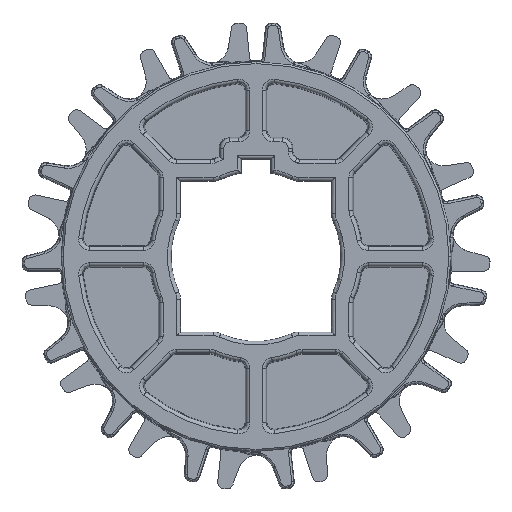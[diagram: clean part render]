
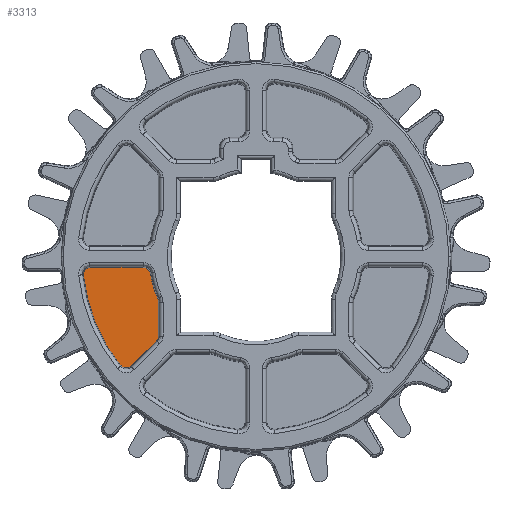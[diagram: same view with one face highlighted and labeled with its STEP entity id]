
A CAD part, top view. The second image highlights one B-rep face of the part: STEP entity #3313.
In plain terms, the highlighted planar face has unit normal (0, 0, 1).
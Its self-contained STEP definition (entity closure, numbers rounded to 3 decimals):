
#158=ELLIPSE('',#22021,2.001,1.999);
#159=ELLIPSE('',#22026,2.002,1.999);
#160=ELLIPSE('',#22032,2.002,1.999);
#161=ELLIPSE('',#22036,2.001,1.999);
#2158=FACE_OUTER_BOUND('',#4749,.T.);
#3313=ADVANCED_FACE('',(#2158),#3694,.T.);
#3694=PLANE('',#22047);
#4749=EDGE_LOOP('',(#12728,#12729,#12730,#12731,#12732,#12733,#12734,#12735,
#12736,#12737));
#6371=LINE('',#38632,#7321);
#6375=LINE('',#38697,#7325);
#6377=LINE('',#38869,#7327);
#7321=VECTOR('',#27632,1.);
#7325=VECTOR('',#27646,1.);
#7327=VECTOR('',#27668,1.);
#12728=ORIENTED_EDGE('',*,*,#18089,.T.);
#12729=ORIENTED_EDGE('',*,*,#18123,.F.);
#12730=ORIENTED_EDGE('',*,*,#18121,.F.);
#12731=ORIENTED_EDGE('',*,*,#18115,.F.);
#12732=ORIENTED_EDGE('',*,*,#18113,.T.);
#12733=ORIENTED_EDGE('',*,*,#18107,.F.);
#12734=ORIENTED_EDGE('',*,*,#18105,.F.);
#12735=ORIENTED_EDGE('',*,*,#18099,.F.);
#12736=ORIENTED_EDGE('',*,*,#18097,.F.);
#12737=ORIENTED_EDGE('',*,*,#18091,.F.);
#15234=VERTEX_POINT('',#38631);
#15235=VERTEX_POINT('',#38633);
#15236=VERTEX_POINT('',#38637);
#15239=VERTEX_POINT('',#38698);
#15240=VERTEX_POINT('',#38705);
#15243=VERTEX_POINT('',#38784);
#15244=VERTEX_POINT('',#38801);
#15247=VERTEX_POINT('',#38870);
#15248=VERTEX_POINT('',#38877);
#15251=VERTEX_POINT('',#38938);
#18089=EDGE_CURVE('',#15235,#15234,#6371,.T.);
#18091=EDGE_CURVE('',#15235,#15236,#158,.T.);
#18097=EDGE_CURVE('',#15236,#15239,#6375,.T.);
#18099=EDGE_CURVE('',#15239,#15240,#159,.T.);
#18105=EDGE_CURVE('',#15240,#15243,#19703,.T.);
#18107=EDGE_CURVE('',#15243,#15244,#160,.T.);
#18113=EDGE_CURVE('',#15247,#15244,#6377,.T.);
#18115=EDGE_CURVE('',#15247,#15248,#161,.T.);
#18121=EDGE_CURVE('',#15248,#15251,#19706,.T.);
#18123=EDGE_CURVE('',#15251,#15234,#19707,.T.);
#19703=CIRCLE('',#22030,46.569);
#19706=CIRCLE('',#22041,28.651);
#19707=CIRCLE('',#22043,3.086);
#22021=AXIS2_PLACEMENT_3D('',#38636,#27636,#27637);
#22026=AXIS2_PLACEMENT_3D('',#38704,#27649,#27650);
#22030=AXIS2_PLACEMENT_3D('',#38783,#27657,#27658);
#22032=AXIS2_PLACEMENT_3D('',#38800,#27661,#27662);
#22036=AXIS2_PLACEMENT_3D('',#38876,#27671,#27672);
#22041=AXIS2_PLACEMENT_3D('',#38937,#27681,#27682);
#22043=AXIS2_PLACEMENT_3D('',#38941,#27686,#27687);
#22047=AXIS2_PLACEMENT_3D('',#38945,#27694,#27695);
#27632=DIRECTION('',(0.,1.,0.));
#27636=DIRECTION('',(0.,0.,-1.));
#27637=DIRECTION('',(0.924,-0.383,0.));
#27646=DIRECTION('',(-0.707,-0.707,0.));
#27649=DIRECTION('',(0.,0.,-1.));
#27650=DIRECTION('',(-0.054,-0.999,0.));
#27657=DIRECTION('',(0.,0.,-1.));
#27658=DIRECTION('',(-0.781,-0.625,0.));
#27661=DIRECTION('',(0.,0.,-1.));
#27662=DIRECTION('',(-0.744,0.668,0.));
#27668=DIRECTION('',(-1.,0.,0.));
#27671=DIRECTION('',(0.,0.,-1.));
#27672=DIRECTION('',(0.649,0.761,0.));
#27681=DIRECTION('',(0.,0.,1.));
#27682=DIRECTION('',(-0.987,-0.16,0.));
#27686=DIRECTION('',(0.,0.,-1.));
#27687=DIRECTION('',(0.921,0.389,0.));
#27694=DIRECTION('',(0.,0.,1.));
#27695=DIRECTION('',(1.,0.,0.));
#38631=CARTESIAN_POINT('',(-26.152,137.656,2.499));
#38632=CARTESIAN_POINT('',(-26.152,128.793,2.499));
#38633=CARTESIAN_POINT('',(-26.152,128.793,2.499));
#38636=CARTESIAN_POINT('',(-28.153,128.794,2.499));
#38637=CARTESIAN_POINT('',(-26.737,127.38,2.499));
#38697=CARTESIAN_POINT('',(-26.737,127.38,2.499));
#38698=CARTESIAN_POINT('',(-33.383,120.734,2.499));
#38704=CARTESIAN_POINT('',(-34.796,122.151,2.499));
#38705=CARTESIAN_POINT('',(-36.356,120.899,2.499));
#38783=CARTESIAN_POINT('',(0.,150.,2.499));
#38784=CARTESIAN_POINT('',(-46.285,144.87,2.499));
#38800=CARTESIAN_POINT('',(-44.297,145.088,2.499));
#38801=CARTESIAN_POINT('',(-44.299,147.088,2.499));
#38869=CARTESIAN_POINT('',(-30.253,147.088,2.499));
#38870=CARTESIAN_POINT('',(-30.253,147.088,2.499));
#38876=CARTESIAN_POINT('',(-30.256,145.088,2.499));
#38877=CARTESIAN_POINT('',(-28.281,145.411,2.499));
#38937=CARTESIAN_POINT('',(0.,150.,2.499));
#38938=CARTESIAN_POINT('',(-26.395,138.856,2.499));
#38941=CARTESIAN_POINT('',(-29.238,137.656,2.499));
#38945=CARTESIAN_POINT('',(0.,150.,2.499));
